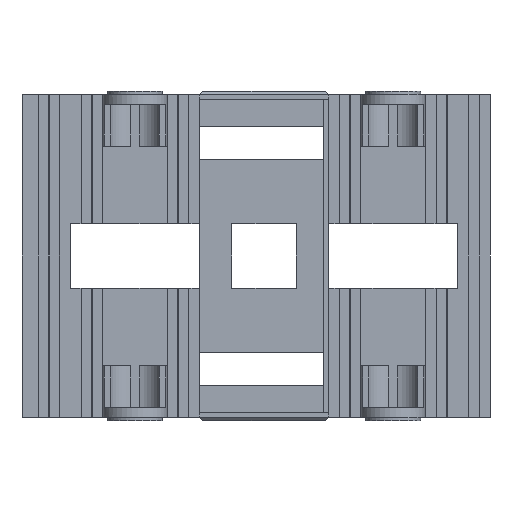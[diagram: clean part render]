
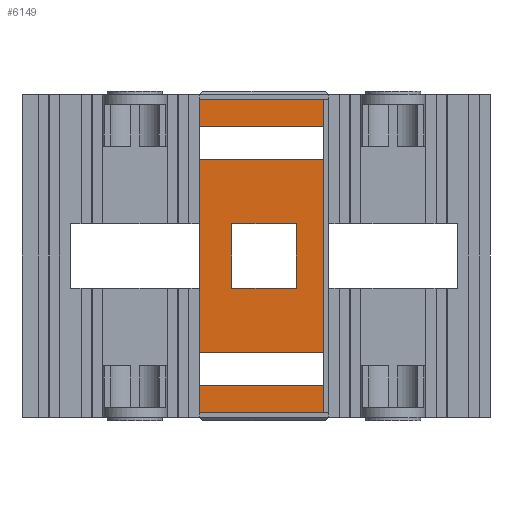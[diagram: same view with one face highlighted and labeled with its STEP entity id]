
A CAD part, front view. The second image highlights one B-rep face of the part: STEP entity #6149.
In plain terms, the highlighted planar face has unit normal (0, -1, 0).
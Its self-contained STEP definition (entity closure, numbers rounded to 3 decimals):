
#19=FACE_BOUND('',#658,.T.);
#75=PLANE('',#6466);
#350=FACE_OUTER_BOUND('',#657,.T.);
#657=EDGE_LOOP('',(#4588,#4589,#4590,#4591,#4592,#4593,#4594,#4595,#4596,
#4597,#4598,#4599,#4600,#4601));
#658=EDGE_LOOP('',(#4602,#4603,#4604,#4605));
#1226=LINE('',#8950,#2076);
#1227=LINE('',#8952,#2077);
#1228=LINE('',#8954,#2078);
#1229=LINE('',#8956,#2079);
#1230=LINE('',#8958,#2080);
#1231=LINE('',#8960,#2081);
#1232=LINE('',#8962,#2082);
#1233=LINE('',#8964,#2083);
#1234=LINE('',#8966,#2084);
#1235=LINE('',#8968,#2085);
#1236=LINE('',#8970,#2086);
#1237=LINE('',#8972,#2087);
#1238=LINE('',#8974,#2088);
#1239=LINE('',#8975,#2089);
#1240=LINE('',#8978,#2090);
#1241=LINE('',#8980,#2091);
#1242=LINE('',#8982,#2092);
#1243=LINE('',#8983,#2093);
#2076=VECTOR('',#7148,10.);
#2077=VECTOR('',#7149,10.);
#2078=VECTOR('',#7150,10.);
#2079=VECTOR('',#7151,10.);
#2080=VECTOR('',#7152,10.);
#2081=VECTOR('',#7153,10.);
#2082=VECTOR('',#7154,10.);
#2083=VECTOR('',#7155,10.);
#2084=VECTOR('',#7156,10.);
#2085=VECTOR('',#7157,10.);
#2086=VECTOR('',#7158,10.);
#2087=VECTOR('',#7159,10.);
#2088=VECTOR('',#7160,10.);
#2089=VECTOR('',#7161,10.);
#2090=VECTOR('',#7162,10.);
#2091=VECTOR('',#7163,10.);
#2092=VECTOR('',#7164,10.);
#2093=VECTOR('',#7165,10.);
#2977=VERTEX_POINT('',#8948);
#2978=VERTEX_POINT('',#8949);
#2979=VERTEX_POINT('',#8951);
#2980=VERTEX_POINT('',#8953);
#2981=VERTEX_POINT('',#8955);
#2982=VERTEX_POINT('',#8957);
#2983=VERTEX_POINT('',#8959);
#2984=VERTEX_POINT('',#8961);
#2985=VERTEX_POINT('',#8963);
#2986=VERTEX_POINT('',#8965);
#2987=VERTEX_POINT('',#8967);
#2988=VERTEX_POINT('',#8969);
#2989=VERTEX_POINT('',#8971);
#2990=VERTEX_POINT('',#8973);
#2991=VERTEX_POINT('',#8976);
#2992=VERTEX_POINT('',#8977);
#2993=VERTEX_POINT('',#8979);
#2994=VERTEX_POINT('',#8981);
#3614=EDGE_CURVE('',#2977,#2978,#1226,.T.);
#3615=EDGE_CURVE('',#2979,#2977,#1227,.T.);
#3616=EDGE_CURVE('',#2980,#2979,#1228,.T.);
#3617=EDGE_CURVE('',#2981,#2980,#1229,.T.);
#3618=EDGE_CURVE('',#2982,#2981,#1230,.T.);
#3619=EDGE_CURVE('',#2983,#2982,#1231,.T.);
#3620=EDGE_CURVE('',#2984,#2983,#1232,.T.);
#3621=EDGE_CURVE('',#2985,#2984,#1233,.T.);
#3622=EDGE_CURVE('',#2986,#2985,#1234,.T.);
#3623=EDGE_CURVE('',#2987,#2986,#1235,.T.);
#3624=EDGE_CURVE('',#2988,#2987,#1236,.T.);
#3625=EDGE_CURVE('',#2989,#2988,#1237,.T.);
#3626=EDGE_CURVE('',#2990,#2989,#1238,.T.);
#3627=EDGE_CURVE('',#2978,#2990,#1239,.T.);
#3628=EDGE_CURVE('',#2991,#2992,#1240,.T.);
#3629=EDGE_CURVE('',#2993,#2991,#1241,.T.);
#3630=EDGE_CURVE('',#2994,#2993,#1242,.T.);
#3631=EDGE_CURVE('',#2992,#2994,#1243,.T.);
#4588=ORIENTED_EDGE('',*,*,#3614,.F.);
#4589=ORIENTED_EDGE('',*,*,#3615,.F.);
#4590=ORIENTED_EDGE('',*,*,#3616,.F.);
#4591=ORIENTED_EDGE('',*,*,#3617,.F.);
#4592=ORIENTED_EDGE('',*,*,#3618,.F.);
#4593=ORIENTED_EDGE('',*,*,#3619,.F.);
#4594=ORIENTED_EDGE('',*,*,#3620,.F.);
#4595=ORIENTED_EDGE('',*,*,#3621,.F.);
#4596=ORIENTED_EDGE('',*,*,#3622,.F.);
#4597=ORIENTED_EDGE('',*,*,#3623,.F.);
#4598=ORIENTED_EDGE('',*,*,#3624,.F.);
#4599=ORIENTED_EDGE('',*,*,#3625,.F.);
#4600=ORIENTED_EDGE('',*,*,#3626,.F.);
#4601=ORIENTED_EDGE('',*,*,#3627,.F.);
#4602=ORIENTED_EDGE('',*,*,#3628,.F.);
#4603=ORIENTED_EDGE('',*,*,#3629,.F.);
#4604=ORIENTED_EDGE('',*,*,#3630,.F.);
#4605=ORIENTED_EDGE('',*,*,#3631,.F.);
#6149=ADVANCED_FACE('',(#350,#19),#75,.F.);
#6466=AXIS2_PLACEMENT_3D('',#8947,#7146,#7147);
#7146=DIRECTION('center_axis',(0.,1.,0.));
#7147=DIRECTION('ref_axis',(0.,0.,
1.));
#7148=DIRECTION('',(1.,0.,0.));
#7149=DIRECTION('',(0.,0.,1.));
#7150=DIRECTION('',(-1.,0.,0.));
#7151=DIRECTION('',(0.,0.,-1.));
#7152=DIRECTION('',(1.,0.,0.));
#7153=DIRECTION('',(0.,0.,1.));
#7154=DIRECTION('',(-1.,0.,0.));
#7155=DIRECTION('',(0.,0.,1.));
#7156=DIRECTION('',(1.,0.,0.));
#7157=DIRECTION('',(0.,0.,1.));
#7158=DIRECTION('',(0.,0.,1.));
#7159=DIRECTION('',(0.,0.,1.));
#7160=DIRECTION('',(-1.,0.,0.));
#7161=DIRECTION('',(0.,0.,1.));
#7162=DIRECTION('',(0.,0.,1.));
#7163=DIRECTION('',(1.,0.,0.));
#7164=DIRECTION('',(0.,0.,-1.));
#7165=DIRECTION('',(-1.,0.,0.));
#8947=CARTESIAN_POINT('Origin',(39.5,8.027,-34.));
#8948=CARTESIAN_POINT('',(20.,8.027,-74.));
#8949=CARTESIAN_POINT('',(58.5,8.027,-74.));
#8950=CARTESIAN_POINT('',(34.75,8.027,-74.));
#8951=CARTESIAN_POINT('',(20.,8.027,-82.5));
#8952=CARTESIAN_POINT('',(20.,8.027,-34.));
#8953=CARTESIAN_POINT('',(59.,8.027,-82.5));
#8954=CARTESIAN_POINT('',(39.5,8.027,-82.5));
#8955=CARTESIAN_POINT('',(59.,8.027,14.5));
#8956=CARTESIAN_POINT('',(59.,8.027,-34.));
#8957=CARTESIAN_POINT('',(20.,8.027,14.5));
#8958=CARTESIAN_POINT('',(39.5,8.027,14.5));
#8959=CARTESIAN_POINT('',(20.,8.027,6.));
#8960=CARTESIAN_POINT('',(20.,8.027,-34.));
#8961=CARTESIAN_POINT('',(58.5,8.027,6.));
#8962=CARTESIAN_POINT('',(34.75,8.027,6.));
#8963=CARTESIAN_POINT('',(58.5,8.027,-4.));
#8964=CARTESIAN_POINT('',(58.5,8.027,-9.75));
#8965=CARTESIAN_POINT('',(20.,8.027,-4.));
#8966=CARTESIAN_POINT('',(34.75,8.027,-4.));
#8967=CARTESIAN_POINT('',(20.,8.027,-24.));
#8968=CARTESIAN_POINT('',(20.,8.027,-34.));
#8969=CARTESIAN_POINT('',(20.,8.027,-44.));
#8970=CARTESIAN_POINT('',(20.,8.027,-34.));
#8971=CARTESIAN_POINT('',(20.,8.027,-64.));
#8972=CARTESIAN_POINT('',(20.,8.027,-34.));
#8973=CARTESIAN_POINT('',(58.5,8.027,-64.));
#8974=CARTESIAN_POINT('',(34.75,8.027,-64.));
#8975=CARTESIAN_POINT('',(58.5,8.027,-9.75));
#8976=CARTESIAN_POINT('',(50.,8.027,-44.));
#8977=CARTESIAN_POINT('',(50.,8.027,-24.));
#8978=CARTESIAN_POINT('',(50.,8.027,-36.5));
#8979=CARTESIAN_POINT('',(30.,8.027,-44.));
#8980=CARTESIAN_POINT('',(37.25,8.027,-44.));
#8981=CARTESIAN_POINT('',(30.,8.027,-24.));
#8982=CARTESIAN_POINT('',(30.,8.027,-31.5));
#8983=CARTESIAN_POINT('',(37.25,8.027,-24.));
